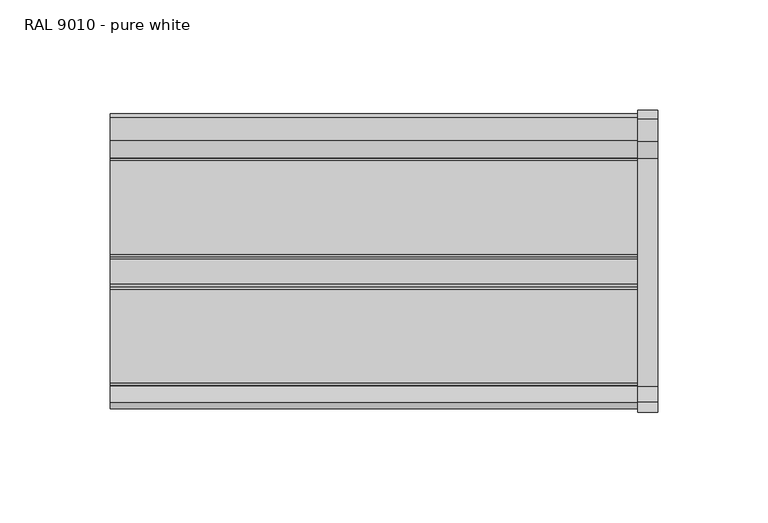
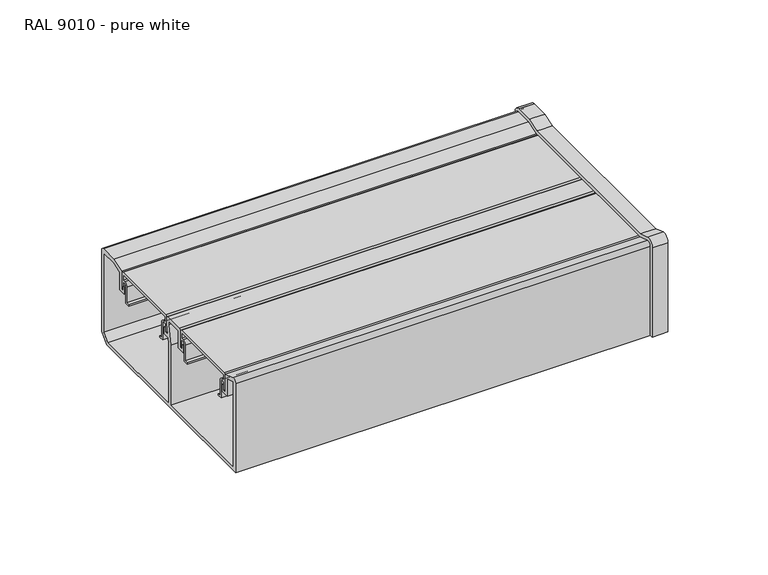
"""IFC4 building model written with IfcOpenShell, lengths in millimetres: proxy geometry, Electrical_Installations_Hager_GBD-Flat-Lid-End-Cap : RAL 9010 - pure white."""

from ifc_helpers import new_model, si_unit, point, frame, frame_2d, origin, place, context, project, spatial, polyline, circle_curve, trimmed, segment, composite_curve, outline, extrude, source, transform, mapped, element, save
from ifc_brep_helpers import plane_surface, cylinder_surface, revolved_surface, advanced_brep


def ral_9010_pure_white_cfcdc44b(model_context):
    return source(origin(), model_context, "Body", "SolidModel", [
        extrude(outline(composite_curve([segment(trimmed(circle_curve(frame_2d((-49.8914345, 39.6343363)), 5.8656637), [point((-55.5085432, 41.3237445))], [point((-49.8914345, 45.5))], False, "CARTESIAN"), True, "CONTINUOUS"), segment(polyline([(-49.8914345, 45.5), (43.4631366, 45.5)]), True, "CONTINUOUS"), segment(trimmed(circle_curve(frame_2d((43.4631366, 39.5252885)), 5.9747115), [point((43.4631366, 45.5))], [point((49.1782923, 41.2671763))], False, "CARTESIAN"), True, "CONTINUOUS"), segment(trimmed(circle_curve(frame_2d((-128.3197107, -12.8313689)), 185.5591379), [point((49.1782923, 41.2671763))], [point((56.7151603, 1.1074319))], False, "CARTESIAN"), True, "CONTINUOUS"), segment(trimmed(circle_curve(frame_2d((55.6880142, 1.0300563)), 1.0300563), [point((56.7151603, 1.1074319))], [point((55.6880142, 0.0))], False, "CARTESIAN"), True, "CONTINUOUS"), segment(polyline([(55.6880142, 0.0), (-62.1861095, 0.0)]), True, "CONTINUOUS"), segment(trimmed(circle_curve(frame_2d((-62.1861095, 0.9434111)), 0.9434111), [point((-62.1861095, 0.0))], [point((-63.1263922, 1.0201774))], False, "CARTESIAN"), True, "CONTINUOUS"), segment(trimmed(circle_curve(frame_2d((131.2639828, -14.8501783)), 195.0371403), [point((-63.1263922, 1.0201774))], [point((-55.5085432, 41.3237445))], False, "CARTESIAN"), True, "CONTINUOUS")], self_intersect=False)), frame((241.7017846, 0.0, 0.0), z_axis=(1.0, 0.0, 0.0), x_axis=(0.0, 1.0, 0.0)), (0.0, 0.0, 1.0), 5.5),
        advanced_brep(
        [(248.3625, 68.3826134, 5.0), (248.3625, 68.3826134, 54.4464817), (248.3625, 64.629095, 58.2), (248.3625, 54.3382065, 58.2), (248.3625, 46.6439977, 55.7), (248.3625, -56.7371553, 55.7), (248.3625, -63.8534471, 58.0122234), (248.3625, -68.7173866, 54.4783645), (248.3625, -68.7173866, 0.0), (248.3625, -67.2173866, 0.0), (248.3625, -67.2173866, 54.4740947), (248.3625, -64.3129118, 56.5843192), (248.3625, -56.974732, 54.2), (248.3625, 46.8815743, 54.2), (248.3625, 54.5757832, 56.7), (248.3625, 64.676444, 56.7), (248.3625, 66.8826134, 54.4938306), (248.3625, 66.8826134, 5.2469728), (248.3625, 61.6356406, 0.0), (248.3625, 63.3826134, 0.0), (239.3625, 68.3826134, 5.0), (239.3625, 63.3826134, 0.0), (239.3625, -68.7173866, 0.0), (239.3625, -68.7173866, 54.4783645), (239.3625, -63.8534471, 58.0122234), (239.3625, -56.7371553, 55.7), (239.3625, 46.6439977, 55.7), (239.3625, 54.3382065, 58.2), (239.3625, 64.629095, 58.2), (239.3625, 68.3826134, 54.4464817), (241.7017846, 68.3826134, 5.0), (241.7017846, 68.3826134, 54.4464817), (241.7017846, 64.629095, 58.2), (241.7017846, 54.3382065, 58.2), (241.7017846, 46.6439977, 55.7), (241.7017846, -56.7371553, 55.7), (241.7017846, -63.8534471, 58.0122234), (241.7017846, -68.7173866, 54.4783645), (241.7017846, 61.6356406, 0.0), (241.7017846, -67.2173866, 0.0), (241.7017846, -67.2173866, 54.4740947), (241.7017846, -64.3129118, 56.5843192), (241.7017846, -56.974732, 54.2), (241.7017846, 46.8815743, 54.2), (241.7017846, 54.5757832, 56.7), (241.7017846, 64.676444, 56.7), (241.7017846, 66.8826134, 54.4938306), (241.7017846, 66.8826134, 5.2469728)],
        [
            (0, 1),
            (1, 2, circle_curve(frame((248.3625, 64.629095, 54.4464817), z_axis=(1.0, 0.0, 0.0), x_axis=(0.0, -1.0, 0.0)), 3.7535183)),
            (2, 3),
            (3, 4),
            (4, 5),
            (5, 6),
            (6, 7, circle_curve(frame((248.3625, -65.0016675, 54.4783645), z_axis=(1.0, 0.0, 0.0), x_axis=(0.0, -1.0, 0.0)), 3.7157191)),
            (7, 8),
            (8, 9),
            (9, 10),
            (10, 11, circle_curve(frame((248.3625, -64.9985653, 54.4740947), z_axis=(-1.0, 0.0, 0.0), x_axis=(0.0, -1.0, 0.0)), 2.2188213)),
            (11, 12),
            (12, 13),
            (13, 14),
            (14, 15),
            (15, 16, circle_curve(frame((248.3625, 64.676444, 54.4938306), z_axis=(-1.0, 0.0, 0.0), x_axis=(0.0, -1.0, 0.0)), 2.2061694)),
            (16, 17),
            (17, 18),
            (18, 19),
            (19, 0),
            (20, 21),
            (21, 22),
            (22, 23),
            (23, 24, circle_curve(frame((239.3625, -65.0016675, 54.4783645), z_axis=(-1.0, 0.0, 0.0), x_axis=(0.0, -1.0, 0.0)), 3.7157191)),
            (24, 25),
            (25, 26),
            (26, 27),
            (27, 28),
            (28, 29, circle_curve(frame((239.3625, 64.629095, 54.4464817), z_axis=(-1.0, 0.0, 0.0), x_axis=(0.0, -1.0, 0.0)), 3.7535183)),
            (29, 20),
            (0, 30),
            (30, 20),
            (29, 31),
            (31, 1),
            (28, 32),
            (32, 2),
            (27, 33),
            (33, 3),
            (26, 34),
            (34, 4),
            (25, 35),
            (35, 5),
            (24, 36),
            (36, 6),
            (23, 37),
            (37, 7),
            (22, 8),
            (21, 19),
            (18, 38),
            (38, 39),
            (39, 9),
            (39, 40),
            (40, 10),
            (40, 41, circle_curve(frame((241.7017846, -64.9985653, 54.4740947), z_axis=(-1.0, 0.0, 0.0), x_axis=(0.0, -1.0, 0.0)), 2.2188213)),
            (41, 11),
            (41, 42),
            (42, 12),
            (42, 43),
            (43, 13),
            (43, 44),
            (44, 14),
            (44, 45),
            (45, 15),
            (45, 46, circle_curve(frame((241.7017846, 64.676444, 54.4938306), z_axis=(-1.0, 0.0, 0.0), x_axis=(0.0, -1.0, 0.0)), 2.2061694)),
            (46, 16),
            (46, 47),
            (47, 17),
            (47, 38),
        ],
        [
            plane_surface(frame((248.3625, 0.0, 0.0), z_axis=(1.0, 0.0, 0.0), x_axis=(0.0, 0.0, 1.0))),
            plane_surface(frame((239.3625, 0.0, 0.0), z_axis=(-1.0, 0.0, 0.0), x_axis=(0.0, 0.0, 1.0))),
            plane_surface(frame((248.3625, 68.3826134, 5.0), z_axis=(0.0, 1.0, 0.0), x_axis=(-1.0, 0.0, 0.0))),
            cylinder_surface(frame((248.3625, 64.629095, 54.4464817), z_axis=(1.0, 0.0, 0.0), x_axis=(0.0, -1.0, 0.0)), 3.7535183),
            plane_surface(frame((248.3625, 64.629095, 58.2), z_axis=(0.0, 0.0, 1.0), x_axis=(-1.0, 0.0, 0.0))),
            plane_surface(frame((248.3625, 54.3382065, 58.2), z_axis=(0.0, -0.30901699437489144, 0.9510565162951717), x_axis=(-1.0, 0.0, 0.0))),
            plane_surface(frame((248.3625, 46.6439977, 55.7), z_axis=(0.0, 0.0, 1.0), x_axis=(-1.0, 0.0, 0.0))),
            plane_surface(frame((248.3625, -56.7371553, 55.7), z_axis=(0.0, 0.30901699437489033, 0.9510565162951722), x_axis=(-1.0, 0.0, 0.0))),
            cylinder_surface(frame((248.3625, -65.0016675, 54.4783645), z_axis=(1.0, 0.0, 0.0), x_axis=(0.0, -1.0, 0.0)), 3.7157191),
            plane_surface(frame((248.3625, -68.7173866, 54.4783645), z_axis=(0.0, -1.0, 0.0), x_axis=(-1.0, 0.0, 0.0))),
            plane_surface(frame((248.3625, -68.7173866, 0.0), z_axis=(0.0, 0.0, -1.0), x_axis=(-1.0, 0.0, 0.0))),
            plane_surface(frame((248.3625, -67.2173866, 0.0), z_axis=(0.0, 1.0, 0.0), x_axis=(-1.0, 0.0, 0.0))),
            revolved_surface(polyline([(241.7017846, -67.2173866, 54.4740947), (248.3625, -67.2173866, 54.4740947)]), (248.3625, -64.9985653, 54.4740947), (-1.0, 0.0, 0.0)),
            plane_surface(frame((248.3625, -64.3129118, 56.5843192), z_axis=(0.0, -0.3090169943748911, -0.951056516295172), x_axis=(-1.0, 0.0, 0.0))),
            plane_surface(frame((248.3625, -56.974732, 54.2), z_axis=(0.0, 0.0, -1.0), x_axis=(-1.0, 0.0, 0.0))),
            plane_surface(frame((248.3625, 46.8815743, 54.2), z_axis=(0.0, 0.30901699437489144, -0.9510565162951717), x_axis=(-1.0, 0.0, 0.0))),
            plane_surface(frame((248.3625, 54.5757832, 56.7), z_axis=(0.0, 0.0, -1.0), x_axis=(-1.0, 0.0, 0.0))),
            revolved_surface(polyline([(241.7017846, 62.4702746, 54.4938306), (248.3625, 62.4702746, 54.4938306)]), (248.3625, 64.676444, 54.4938306), (-1.0, 0.0, 0.0)),
            plane_surface(frame((248.3625, 66.8826134, 54.4938306), z_axis=(0.0, -1.0, 0.0), x_axis=(-1.0, 0.0, 0.0))),
            plane_surface(frame((248.3625, 66.8826134, 5.2469728), z_axis=(0.0, -0.7071067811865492, 0.7071067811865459), x_axis=(-1.0, 0.0, 0.0))),
            plane_surface(frame((248.3625, 63.3826134, 0.0), z_axis=(0.0, 0.7071067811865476, -0.7071067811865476), x_axis=(-1.0, 0.0, 0.0))),
            plane_surface(frame((241.7017846, -68.7173866, 54.4783645), z_axis=(1.0, 0.0, 0.0), x_axis=(0.0, 0.0, -1.0))),
        ],
        [
            (0, [[1, 2, 3, 4, 5, 6, 7, 8, 9, 10, 11, 12, 13, 14, 15, 16, 17, 18, 19, 20]]),
            (1, [[21, 22, 23, 24, 25, 26, 27, 28, 29, 30]]),
            (2, [[-1, 31, 32, -30, 33, 34]]),
            (3, [[-2, -34, -33, -29, 35, 36]]),
            (4, [[-3, -36, -35, -28, 37, 38]]),
            (5, [[-4, -38, -37, -27, 39, 40]]),
            (6, [[-5, -40, -39, -26, 41, 42]]),
            (7, [[-6, -42, -41, -25, 43, 44]]),
            (8, [[-7, -44, -43, -24, 45, 46]]),
            (9, [[47, -8, -46, -45, -23]]),
            (10, [[-9, -47, -22, 48, -19, 49, 50, 51]]),
            (11, [[-10, -51, 52, 53]]),
            (12, [[-11, -53, 54, 55]]),
            (13, [[-12, -55, 56, 57]]),
            (14, [[-13, -57, 58, 59]]),
            (15, [[-14, -59, 60, 61]]),
            (16, [[-15, -61, 62, 63]]),
            (17, [[-16, -63, 64, 65]]),
            (18, [[-17, -65, 66, 67]]),
            (19, [[-18, -67, 68, -49]]),
            (20, [[-20, -48, -21, -32, -31]]),
            (21, [[-50, -68, -66, -64, -62, -60, -58, -56, -54, -52]]),
        ],
    ),
        extrude(outline(composite_curve([segment(polyline([(-64.6976563, 54.0894343), (-64.6976563, 2.0), (-2.2476563, 2.0), (-2.2476563, 38.3324137), (-0.2476563, 49.6749773), (-0.2476563, 52.0), (-9.8476563, 52.0), (-9.8476563, 41.5012147), (-14.5382813, 41.5012147), (-14.5382813, 45.748101), (-13.5382813, 45.748101), (-13.5382813, 42.9887147), (-11.6476563, 42.9887147), (-11.6476563, 53.0031102)]), True, "CONTINUOUS"), segment(trimmed(circle_curve(frame_2d((-10.6507665, 53.0031102)), 0.9968898), [point((-11.6476563, 53.0031102))], [point((-10.6507665, 54.0))], False, "CARTESIAN"), True, "CONTINUOUS"), segment(polyline([(-10.6507665, 54.0), (0.7441474, 54.0)]), True, "CONTINUOUS"), segment(trimmed(circle_curve(frame_2d((0.7441474, 52.9918037)), 1.0081963), [point((0.7441474, 54.0))], [point((1.7523437, 52.9918037))], False, "CARTESIAN"), True, "CONTINUOUS"), segment(polyline([(1.7523437, 52.9918037), (1.7523437, 49.5), (0.6591165, 43.3), (3.2523437, 43.3), (3.2523437, 45.7537431), (4.2523437, 45.7537431), (4.2523437, 41.5), (0.3417279, 41.5), (-0.2476563, 38.1574364), (-0.2476563, 2.0), (60.5496526, 2.0), (64.5023437, 5.9526912), (64.5023437, 54.2), (54.8614746, 54.2), (48.5523437, 52.1500391), (48.5523437, 41.5), (44.2523437, 41.5), (44.2523437, 45.7556921), (45.2523437, 45.7556921), (45.2523437, 42.9887147), (46.7523437, 42.9887147), (46.7523437, 53.9835468), (54.4971904, 56.5), (64.8989144, 56.5)]), True, "CONTINUOUS"), segment(trimmed(circle_curve(frame_2d((64.8989144, 54.5965707)), 1.9034293), [point((64.8989144, 56.5))], [point((66.8023437, 54.5965707))], False, "CARTESIAN"), True, "CONTINUOUS"), segment(polyline([(66.8023437, 54.5965707), (66.8023437, 5.0), (61.8023437, 0.0), (-66.9976563, 0.0), (-66.9976563, 54.4045249)]), True, "CONTINUOUS"), segment(trimmed(circle_curve(frame_2d((-64.9278927, 54.4045249)), 2.0697636), [point((-66.9976563, 54.4045249))], [point((-64.2989994, 56.3764312))], False, "CARTESIAN"), True, "CONTINUOUS"), segment(polyline([(-64.2989994, 56.3764312), (-56.8429688, 53.998505), (-56.8429688, 42.9887147), (-54.6789063, 42.9887147), (-54.6789063, 45.7565885), (-53.6789063, 45.7565885), (-53.6789063, 41.5012147), (-58.4476563, 41.5012147), (-58.4476563, 52.0961433), (-64.6976563, 54.0894343)]), True, "CONTINUOUS")], self_intersect=False)), frame((0.0, 0.0, 0.0), z_axis=(1.0, 0.0, 0.0), x_axis=(0.0, 1.0, 0.0)), (0.0, 0.0, 1.0), 239.3625),
        extrude(outline(composite_curve([segment(polyline([(-13.1613464, 52.5816445), (-55.0613464, 52.5816445), (-55.0613464, 49.2816445), (-53.7229555, 49.2816445)]), True, "CONTINUOUS"), segment(trimmed(circle_curve(frame_2d((-53.7229555, 47.1700354)), 2.1116091), [point((-53.7229555, 49.2816445))], [point((-51.6113464, 47.1700354))], False, "CARTESIAN"), True, "CONTINUOUS"), segment(polyline([(-51.6113464, 47.1700354), (-51.6113464, 37.6816445), (-49.7113464, 37.6816445), (-49.7113464, 36.8816445), (-52.6113464, 36.8816445), (-52.6113464, 47.3262929)]), True, "CONTINUOUS"), segment(trimmed(circle_curve(frame_2d((-53.566698, 47.3262929)), 0.9553516), [point((-52.6113464, 47.3262929))], [point((-53.566698, 48.2816445))], True, "CARTESIAN"), True, "CONTINUOUS"), segment(polyline([(-53.566698, 48.2816445), (-55.3644879, 48.2816445), (-55.3644879, 43.8012242), (-56.3660339, 43.8012242), (-56.3660339, 53.0900381)]), True, "CONTINUOUS"), segment(trimmed(circle_curve(frame_2d((-55.456072, 53.0900381)), 0.9099619), [point((-56.3660339, 53.0900381))], [point((-55.456072, 54.0))], False, "CARTESIAN"), True, "CONTINUOUS"), segment(polyline([(-55.456072, 54.0), (-12.9820268, 54.0)]), True, "CONTINUOUS"), segment(trimmed(circle_curve(frame_2d((-12.9820268, 52.9918196)), 1.0081804), [point((-12.9820268, 54.0))], [point((-11.9738464, 52.9918196))], False, "CARTESIAN"), True, "CONTINUOUS"), segment(polyline([(-11.9738464, 52.9918196), (-11.9738464, 43.8012242), (-12.858205, 43.8012242), (-12.858205, 48.2816445), (-14.6025892, 48.2816445)]), True, "CONTINUOUS"), segment(trimmed(circle_curve(frame_2d((-14.6025892, 47.2728873)), 1.0087572), [point((-14.6025892, 48.2816445))], [point((-15.6113464, 47.2728873))], True, "CARTESIAN"), True, "CONTINUOUS"), segment(polyline([(-15.6113464, 47.2728873), (-15.6113464, 36.8816445), (-18.5113464, 36.8816445), (-18.5113464, 37.6816445), (-16.6113464, 37.6816445), (-16.6113464, 47.3197896)]), True, "CONTINUOUS"), segment(trimmed(circle_curve(frame_2d((-14.6494915, 47.3197896)), 1.9618549), [point((-16.6113464, 47.3197896))], [point((-14.6494915, 49.2816445))], False, "CARTESIAN"), True, "CONTINUOUS"), segment(polyline([(-14.6494915, 49.2816445), (-13.1613464, 49.2816445), (-13.1613464, 52.5816445)]), True, "CONTINUOUS")], self_intersect=False)), frame((0.0, 0.0, 0.0), z_axis=(1.0, 0.0, 0.0), x_axis=(0.0, 1.0, 0.0)), (0.0, 0.0, 1.0), 239.3625),
        extrude(outline(composite_curve([segment(polyline([(45.1923672, 52.5816445), (3.2923672, 52.5816445), (3.2923672, 49.2816445), (4.6307581, 49.2816445)]), True, "CONTINUOUS"), segment(trimmed(circle_curve(frame_2d((4.6307581, 47.1700354)), 2.1116091), [point((4.6307581, 49.2816445))], [point((6.7423672, 47.1700354))], False, "CARTESIAN"), True, "CONTINUOUS"), segment(polyline([(6.7423672, 47.1700354), (6.7423672, 37.6816445), (8.6423672, 37.6816445), (8.6423672, 36.8816445), (5.7423672, 36.8816445), (5.7423672, 47.3262929)]), True, "CONTINUOUS"), segment(trimmed(circle_curve(frame_2d((4.7870156, 47.3262929)), 0.9553516), [point((5.7423672, 47.3262929))], [point((4.7870156, 48.2816445))], True, "CARTESIAN"), True, "CONTINUOUS"), segment(polyline([(4.7870156, 48.2816445), (2.9892258, 48.2816445), (2.9892258, 43.8231023), (1.9876797, 43.8231023), (1.9876797, 53.0900381)]), True, "CONTINUOUS"), segment(trimmed(circle_curve(frame_2d((2.8976417, 53.0900381)), 0.9099619), [point((1.9876797, 53.0900381))], [point((2.8976417, 54.0))], False, "CARTESIAN"), True, "CONTINUOUS"), segment(polyline([(2.8976417, 54.0), (45.3716869, 54.0)]), True, "CONTINUOUS"), segment(trimmed(circle_curve(frame_2d((45.3716869, 52.9918196)), 1.0081804), [point((45.3716869, 54.0))], [point((46.3798672, 52.9918196))], False, "CARTESIAN"), True, "CONTINUOUS"), segment(polyline([(46.3798672, 52.9918196), (46.3798672, 43.9733035), (45.4955087, 43.9733035), (45.4955087, 48.2816445), (43.7511244, 48.2816445)]), True, "CONTINUOUS"), segment(trimmed(circle_curve(frame_2d((43.7511244, 47.2728873)), 1.0087572), [point((43.7511244, 48.2816445))], [point((42.7423672, 47.2728873))], True, "CARTESIAN"), True, "CONTINUOUS"), segment(polyline([(42.7423672, 47.2728873), (42.7423672, 36.8816445), (39.8423672, 36.8816445), (39.8423672, 37.6816445), (41.7423672, 37.6816445), (41.7423672, 47.3197896)]), True, "CONTINUOUS"), segment(trimmed(circle_curve(frame_2d((43.7042221, 47.3197896)), 1.9618549), [point((41.7423672, 47.3197896))], [point((43.7042221, 49.2816445))], False, "CARTESIAN"), True, "CONTINUOUS"), segment(polyline([(43.7042221, 49.2816445), (45.1923672, 49.2816445), (45.1923672, 52.5816445)]), True, "CONTINUOUS")], self_intersect=False)), frame((0.0, 0.0, 0.0), z_axis=(1.0, 0.0, 0.0), x_axis=(0.0, 1.0, 0.0)), (0.0, 0.0, 1.0), 239.3625),
    ])


if __name__ == "__main__":
    model = new_model("IFC4")
    model_context = context("Model", 3, world=origin())
    ifc_project = project(units=[si_unit("LENGTHUNIT", "METRE", prefix="MILLI")], contexts=[model_context])
    site = spatial("IfcSite", under=ifc_project)
    building = spatial("IfcBuilding", under=site)
    placement = place(None, origin())
    ral_9010_pure_white_shape = ral_9010_pure_white_cfcdc44b(model_context)
    element("IfcBuildingElementProxy", 1, Name="Electrical_Installations_Hager_GBD-Flat-Lid-End-Cap : RAL 9010 - pure white", ObjectType="Electrical_Installations_Hager_GBD-Flat-Lid-End-Cap : RAL 9010 - pure white", at=placement, inside=building, context=model_context, shape_type="MappedRepresentation", body=[
        mapped(ral_9010_pure_white_shape, transform((0.0, 0.0, 0.0), x_axis=(1.0, 0.0, 0.0), y_axis=(0.0, 1.0, 0.0), z_axis=(0.0, 0.0, 1.0))),
    ])
    save(model, "model.ifc")
